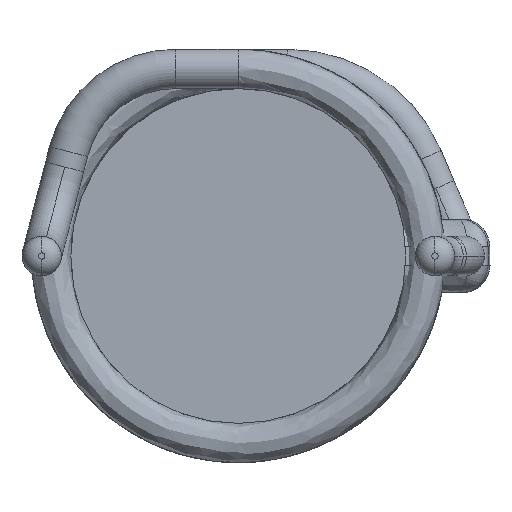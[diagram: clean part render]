
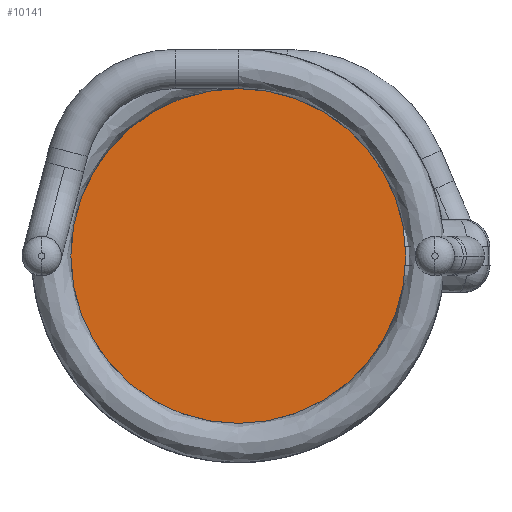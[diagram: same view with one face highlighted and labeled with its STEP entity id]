
A CAD part, front view. The second image highlights one B-rep face of the part: STEP entity #10141.
In plain terms, the highlighted planar face has unit normal (0, -1, 0).
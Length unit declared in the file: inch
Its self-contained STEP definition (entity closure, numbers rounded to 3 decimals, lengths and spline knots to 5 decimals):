
#866 = AXIS2_PLACEMENT_3D ( 'NONE', #3755, #1464, #11186 ) ;
#1064 = PLANE ( 'NONE',  #866 ) ;
#1315 = CIRCLE ( 'NONE', #11046, 0.17931 ) ;
#1413 = DIRECTION ( 'NONE',  ( 0., 1., 0. ) ) ;
#1464 = DIRECTION ( 'NONE',  ( 0., 1., 0. ) ) ;
#1519 = AXIS2_PLACEMENT_3D ( 'NONE', #11741, #1413, #10718 ) ;
#1848 = VERTEX_POINT ( 'NONE', #8405 ) ;
#1945 = CARTESIAN_POINT ( 'NONE',  ( 0., 0., 0. ) ) ;
#3082 = EDGE_CURVE ( 'NONE', #1848, #11759, #1315, .T. ) ;
#3594 = DIRECTION ( 'NONE',  ( 0., 0., 1. ) ) ;
#3755 = CARTESIAN_POINT ( 'NONE',  ( 0., 0., 0. ) ) ;
#6496 = ORIENTED_EDGE ( 'NONE', *, *, #3082, .F. ) ;
#6606 = ORIENTED_EDGE ( 'NONE', *, *, #8922, .F. ) ;
#6904 = CIRCLE ( 'NONE', #1519, 0.17931 ) ;
#8405 = CARTESIAN_POINT ( 'NONE',  ( 0., 0., -0.17931 ) ) ;
#8922 = EDGE_CURVE ( 'NONE', #11759, #1848, #6904, .T. ) ;
#9177 = DIRECTION ( 'NONE',  ( 0., 1., 0. ) ) ;
#10141 = ADVANCED_FACE ( 'NONE', ( #11385 ), #1064, .F. ) ;
#10718 = DIRECTION ( 'NONE',  ( 0., 0., 1. ) ) ;
#10834 = CARTESIAN_POINT ( 'NONE',  ( 0., 0., 0.17931 ) ) ;
#11046 = AXIS2_PLACEMENT_3D ( 'NONE', #1945, #9177, #3594 ) ;
#11186 = DIRECTION ( 'NONE',  ( 0., 0., 1. ) ) ;
#11385 = FACE_OUTER_BOUND ( 'NONE', #11963, .T. ) ;
#11741 = CARTESIAN_POINT ( 'NONE',  ( 0., 0., 0. ) ) ;
#11759 = VERTEX_POINT ( 'NONE', #10834 ) ;
#11963 = EDGE_LOOP ( 'NONE', ( #6496, #6606 ) ) ;
